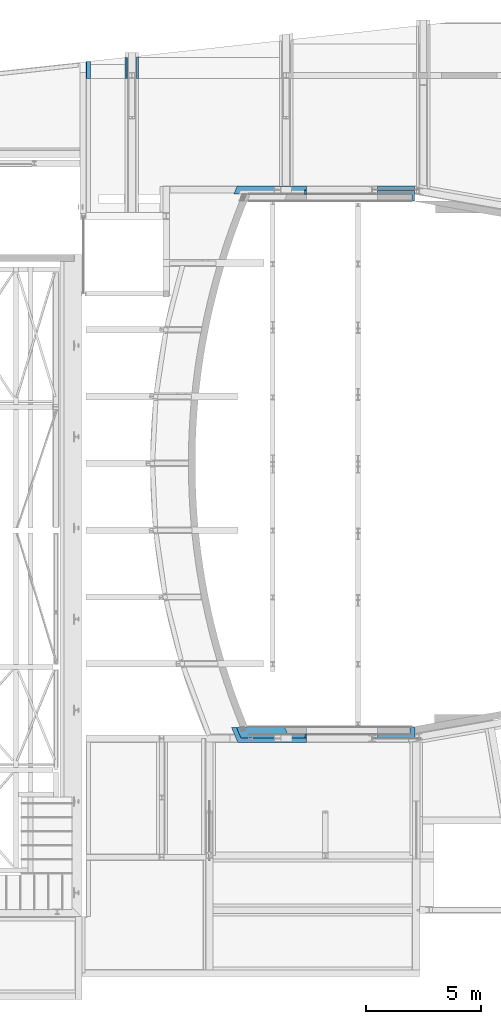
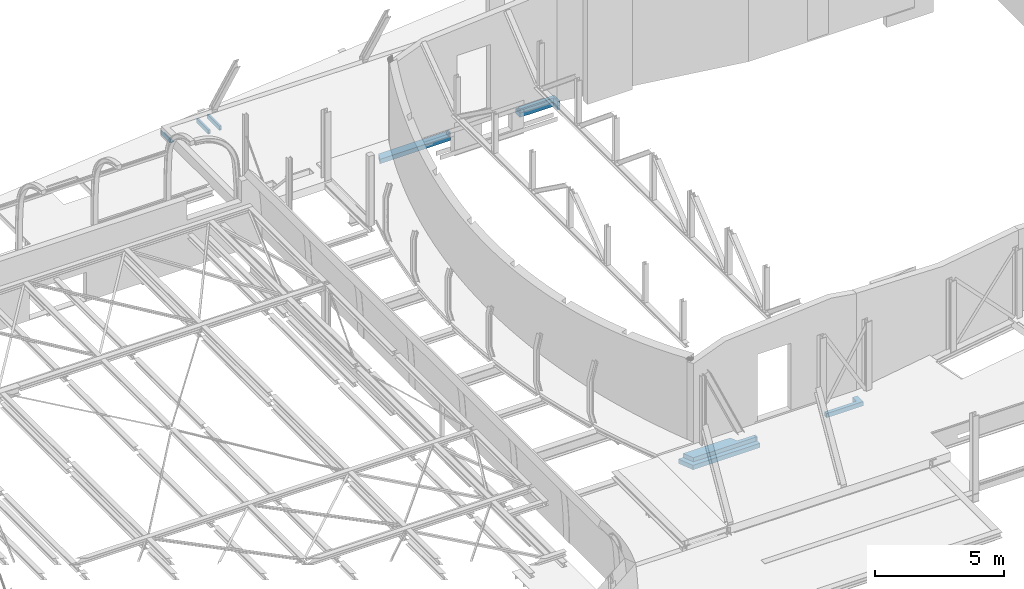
# One storey, part 28 of 38: 11 beams.
"""IFC2X3 building model written with IfcOpenShell, lengths in millimetres."""

from ifc_helpers import new_model, entity, si_unit, converted_unit, derived_unit, direction, frame, frame_2d, origin, origin_2d_with_axis, place, context, subcontext, project, spatial, polyline, circle_curve, parameter, trimmed, segment, composite_curve, rectangle, outline, extrude, faceted_brep, material, type_object, element, save


model = new_model("IFC2X3")

# Units and contexts
model_context = context("Model", 3, precision=0.01, world=origin(), true_north=direction((6.12303176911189e-17, 1.0)))
body_context = subcontext(model_context, "Body", "Model", "MODEL_VIEW")
ifc_project = project(units=[si_unit("LENGTHUNIT", "METRE", prefix="MILLI"), si_unit("AREAUNIT", "SQUARE_METRE", prefix="MILLI"), si_unit("VOLUMEUNIT", "CUBIC_METRE"), converted_unit("PLANEANGLEUNIT", "DEGREE", entity("IfcRatioMeasure", 0.0174532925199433), si_unit("PLANEANGLEUNIT", "RADIAN"), dimensions=[0, 0, 0, 0, 0, 0, 0]), si_unit("MASSUNIT", "GRAM", prefix="KILO"), derived_unit("MASSDENSITYUNIT", [(si_unit("MASSUNIT", "GRAM", prefix="KILO"), 1), (si_unit("LENGTHUNIT", "METRE"), -3)]), derived_unit("MOMENTOFINERTIAUNIT", [(si_unit("LENGTHUNIT", "METRE"), 4)]), si_unit("TIMEUNIT", "SECOND"), si_unit("FREQUENCYUNIT", "HERTZ"), si_unit("THERMODYNAMICTEMPERATUREUNIT", "DEGREE_CELSIUS"), derived_unit("THERMALTRANSMITTANCEUNIT", [(si_unit("MASSUNIT", "GRAM", prefix="KILO"), 1), (si_unit("THERMODYNAMICTEMPERATUREUNIT", "KELVIN"), -1), (si_unit("TIMEUNIT", "SECOND"), -3)]), derived_unit("VOLUMETRICFLOWRATEUNIT", [(si_unit("LENGTHUNIT", "METRE"), 3), (si_unit("TIMEUNIT", "SECOND"), -1)]), si_unit("ELECTRICCURRENTUNIT", "AMPERE"), si_unit("ELECTRICVOLTAGEUNIT", "VOLT"), si_unit("POWERUNIT", "WATT"), si_unit("FORCEUNIT", "NEWTON", prefix="KILO"), si_unit("ILLUMINANCEUNIT", "LUX"), si_unit("LUMINOUSFLUXUNIT", "LUMEN"), si_unit("LUMINOUSINTENSITYUNIT", "CANDELA"), derived_unit("USERDEFINED", [(si_unit("MASSUNIT", "GRAM", prefix="KILO"), -1), (si_unit("LENGTHUNIT", "METRE"), -2), (si_unit("TIMEUNIT", "SECOND"), 3), (si_unit("LUMINOUSFLUXUNIT", "LUMEN"), 1)]), derived_unit("LINEARVELOCITYUNIT", [(si_unit("LENGTHUNIT", "METRE"), 1), (si_unit("TIMEUNIT", "SECOND"), -1)]), si_unit("PRESSUREUNIT", "PASCAL"), derived_unit("USERDEFINED", [(si_unit("LENGTHUNIT", "METRE"), -2), (si_unit("MASSUNIT", "GRAM", prefix="KILO"), 1), (si_unit("TIMEUNIT", "SECOND"), -2)]), derived_unit("LINEARFORCEUNIT", [(si_unit("MASSUNIT", "GRAM", prefix="KILO"), 1), (si_unit("LENGTHUNIT", "METRE"), 1), (si_unit("TIMEUNIT", "SECOND"), -2), (si_unit("LENGTHUNIT", "METRE"), -1)]), derived_unit("PLANARFORCEUNIT", [(si_unit("MASSUNIT", "GRAM", prefix="KILO"), 1), (si_unit("LENGTHUNIT", "METRE"), 1), (si_unit("TIMEUNIT", "SECOND"), -2), (si_unit("LENGTHUNIT", "METRE"), -2)])], contexts=[model_context])

# Site, building, storey
site_placement = place(None, origin())
site = spatial("IfcSite", under=ifc_project, at=site_placement, Name="Theater aan de Parade", CompositionType="ELEMENT")
building_placement = place(site_placement, origin())
building = spatial("IfcBuilding", under=site, at=building_placement, Name="Theater aan de Parade", CompositionType="ELEMENT")
storey_placement = place(building_placement, frame((0.0, 0.0, 12480.0)))
storey = spatial("IfcBuildingStorey", under=building, at=storey_placement, Name="03 derde verdieping", CompositionType="ELEMENT", Elevation=12480.0)

# Beams
ifc_material_1 = material(Name="00_PBT_MAT_beton t.p.g.")
beam_type_1 = type_object("IfcBeamType", Name="28_PBT_SF_betonbalk:660x210_bestaand", PredefinedType="NOTDEFINED")
beam_1_placement = place(storey_placement, frame((43911.4379063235, 44208.4047277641, -800.0)))
element("IfcBeam", 1, at=beam_1_placement, inside=storey, type_object=beam_type_1, material=ifc_material_1, Name="28_PBT_SF_betonbalk:660x210_bestaand", ObjectType="28_PBT_SF_betonbalk:660x210_bestaand", context=body_context, shape_type="Brep", body=[
    faceted_brep([(3168.59735221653, 1.59527223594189, 0.0), (3168.59735221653, 361.595272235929, 0.0), (3168.59735221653, 361.595272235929, 210.0), (3168.59735221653, 161.595272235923, 210.0), (3168.59735221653, 1.59527223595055, 210.0), (3168.59735221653, 1.59527223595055, 200.0), (154.236377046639, 361.595272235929, 210.0), (154.23637704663, 361.595272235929, 0.0), (3087.42829916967, 1.59527223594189, 210.0), (219.806806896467, 1.59527223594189, 210.0), (217.751582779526, 1.59527223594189, 210.0), (1.59527223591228, 1.59527223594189, 210.0), (1.59527223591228, 1.59527223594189, 0.0), (1829.088116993, 1.59527223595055, 0.0), (77.3418285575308, 181.836861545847, 210.0), (77.3418285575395, 181.836861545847, 0.0)], [[[0, 1, 2, 3, 4, 5]], [[6, 2, 1, 7]], [[8, 9, 10, 11, 12, 13, 0, 5, 4]], [[8, 4, 3, 2, 6, 14, 11, 10, 9]], [[1, 0, 13, 12, 15, 7]], [[11, 14, 15, 12]], [[15, 14, 6, 7]]]),
])
beam_2_placement = place(storey_placement, frame((43812.5667193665, 20268.4047277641, -800.0)))
element("IfcBeam", 2, at=beam_2_placement, inside=storey, type_object=beam_type_1, material=ifc_material_1, Name="28_PBT_SF_betonbalk:660x210_bestaand", ObjectType="28_PBT_SF_betonbalk:660x210_bestaand", context=body_context, shape_type="Brep", body=[
    faceted_brep([(3267.46853917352, 1.59527223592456, 0.0), (3267.46853917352, 361.595272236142, 0.0), (3267.46853917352, 361.595272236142, 210.0), (3267.46853917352, 201.595272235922, 210.0), (3267.46853917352, 1.59527223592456, 210.0), (277.332779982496, 1.59527223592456, 0.0), (277.332779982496, 1.59527223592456, 210.0), (3210.52470210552, 361.595272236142, 210.0), (2459.1647734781, 361.595272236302, 210.0), (2391.54937010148, 511.401887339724, 210.0), (2324.79750244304, 661.595272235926, 210.0), (217.428094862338, 661.59527223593, 210.0), (1.59527223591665, 661.595272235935, 210.0), (137.541154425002, 330.791927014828, 210.0), (2324.79750244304, 661.595272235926, 0.0), (1822.8262412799, 661.595272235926, 0.0), (1.59527223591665, 661.595272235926, 0.0), (2391.54937010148, 511.401887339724, 0.0), (2459.16477347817, 361.595272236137, 0.0), (137.541154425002, 330.791927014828, 0.0)], [[[0, 1, 2, 3, 4]], [[5, 0, 4, 6]], [[4, 3, 2, 7, 8, 9, 10, 11, 12, 13, 6]], [[11, 10, 14, 15, 16, 12]], [[14, 17, 18, 1, 0, 5, 19, 16, 15]], [[16, 19, 13, 12]], [[13, 19, 5, 6]], [[7, 2, 1, 18, 8]], [[9, 17, 14, 10]], [[8, 18, 17, 9]]]),
])
beam_3_placement = place(storey_placement, frame((50180.03525854, 43910.0, -800.0), z_axis=(0.0, 0.0, 1.0), x_axis=(-1.0, 0.0, 0.0)))
element("IfcBeam", 3, at=beam_3_placement, inside=storey, type_object=beam_type_1, material=ifc_material_1, Name="28_PBT_SF_betonbalk:660x210_bestaand", ObjectType="28_PBT_SF_betonbalk:660x210_bestaand", context=body_context, shape_type="Brep", body=[
    faceted_brep([(0.0, -660.0, 210.0), (0.0, -660.0, 0.0), (0.0, -300.0, 0.0), (0.0, -300.0, 200.0), (0.0, -460.0, 200.0), (0.0, -460.0, 210.0), (-1618.83094695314, -660.0, 210.0), (-1618.83094695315, -660.0, 0.0), (-1618.83094695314, -460.0, 210.0), (-1618.83094695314, -460.0, 200.0), (-1618.83094695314, 0.0, 200.0), (-1618.83094695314, 0.0, 0.0), (-1502.99076307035, 0.0, 0.0), (-1502.99076307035, 0.0, 200.0), (-1502.99076307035, -300.0, 0.0), (-1502.99076307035, -300.0, 200.0)], [[[0, 1, 2, 3, 4, 5]], [[1, 0, 6, 7]], [[7, 6, 8, 9, 10, 11]], [[6, 0, 5, 8]], [[12, 11, 10, 13]], [[1, 7, 11, 12, 14, 2]], [[2, 14, 15, 3]], [[14, 12, 13, 15]], [[4, 9, 8, 5]], [[9, 4, 3, 15, 13, 10]]]),
])
beam_type_2 = type_object("IfcBeamType", Name="28_PBT_SF_betonbalk:460x200_bestaand", PredefinedType="NOTDEFINED")
beam_4_placement = place(storey_placement, frame((46998.8662054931, 43910.0, 1000.0)))
element("IfcBeam", 4, at=beam_4_placement, inside=storey, type_object=beam_type_2, material=ifc_material_1, Name="28_PBT_SF_betonbalk:460x200_bestaand", ObjectType="28_PBT_SF_betonbalk:460x200_bestaand", context=body_context, shape_type="SweptSolid", body=[
    extrude(rectangle(XDim=190.0, YDim=159.999999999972, at=frame_2d((0.0, 4.33431068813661e-12), x_axis=(1.0, 0.0))), frame((0.0, 380.0, -1495.0), z_axis=(1.0, 0.0, 0.0), x_axis=(0.0, 0.0, -1.0)), (0.0, 0.0, 1.0), 81.1690530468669),
])
beam_5_placement = place(storey_placement, frame((47023.0914214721, 20930.0, 1000.0)))
element("IfcBeam", 5, at=beam_5_placement, inside=storey, type_object=beam_type_2, material=ifc_material_1, Name="28_PBT_SF_betonbalk:460x200_bestaand", ObjectType="28_PBT_SF_betonbalk:460x200_bestaand", context=body_context, shape_type="SweptSolid", body=[
    extrude(rectangle(XDim=190.0, YDim=160.000000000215, at=origin_2d_with_axis()), frame((0.0, -380.0, -1495.0), z_axis=(1.0, 0.0, 0.0), x_axis=(0.0, 0.0, -1.0)), (0.0, 0.0, 1.0), 56.9438370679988),
])
beam_6_placement = place(storey_placement, frame((50180.03525854, 43910.0, -600.0)))
element("IfcBeam", 6, at=beam_6_placement, inside=storey, type_object=beam_type_2, material=ifc_material_1, Name="28_PBT_SF_betonbalk:460x200_bestaand", ObjectType="28_PBT_SF_betonbalk:460x200_bestaand", context=body_context, shape_type="Brep", body=[
    faceted_brep([(1618.83094695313, 460.0, 200.0), (1618.83094695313, 0.0, 200.0), (1618.83094695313, 0.0, 0.0), (1618.83094695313, 460.0, 0.0), (1618.83094695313, 460.0, 10.0), (0.0, 460.0, 0.0), (0.0, 460.0, 10.0), (0.0, 460.0, 200.0), (0.0, 300.0, 0.0), (0.0, 300.0, 200.0), (1502.99076307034, 300.0, 200.0), (1502.99076307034, 0.0, 200.0), (1502.99076307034, 0.0, 0.0), (1502.99076307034, 300.0, 0.0)], [[[0, 1, 2, 3, 4]], [[0, 4, 3, 5, 6, 7]], [[7, 6, 5, 8, 9]], [[1, 0, 7, 9, 10, 11]], [[2, 1, 11, 12]], [[3, 2, 12, 13, 8, 5]], [[13, 10, 9, 8]], [[10, 13, 12, 11]]]),
])
beam_7_placement = place(storey_placement, frame((50180.0352585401, 20470.0, -600.0)))
element("IfcBeam", 7, at=beam_7_placement, inside=storey, type_object=beam_type_2, material=ifc_material_1, Name="28_PBT_SF_betonbalk:460x200_bestaand", ObjectType="28_PBT_SF_betonbalk:460x200_bestaand", context=body_context, shape_type="Brep", body=[
    faceted_brep([(1643.05616293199, 460.0, 200.0), (1643.05616293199, 0.0, 200.0), (1643.05616293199, 0.0, 0.0), (1643.05616293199, 460.0, 0.0), (0.0, 0.0, 200.0), (0.0, 0.0, 0.0), (0.0, 160.0, 200.0), (0.0, 160.0, 0.0), (1417.27647735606, 460.0, 200.0), (1417.27647735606, 160.0, 200.0), (1417.27647735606, 460.0, 0.0), (1417.27647735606, 160.0, 0.0)], [[[0, 1, 2, 3]], [[2, 1, 4, 5]], [[5, 4, 6, 7]], [[1, 0, 8, 9, 6, 4]], [[0, 3, 10, 8]], [[3, 2, 5, 7, 11, 10]], [[9, 11, 7, 6]], [[11, 9, 8, 10]]]),
])
beam_type_3 = type_object("IfcBeamType", Name="28_PBT_SF_betonbalk:460x400_bestaand", PredefinedType="NOTDEFINED")
beam_8_placement = place(storey_placement, frame((44028.3995419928, 20468.4047277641, -590.0)))
element("IfcBeam", 8, at=beam_8_placement, inside=storey, type_object=beam_type_3, material=ifc_material_1, Name="28_PBT_SF_betonbalk:460x400_bestaand", ObjectType="28_PBT_SF_betonbalk:460x400_bestaand", context=body_context, shape_type="Brep", body=[
    faceted_brep([(193.32847885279, 1.59527223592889, 0.0), (2994.69187947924, 1.59527223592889, 0.0), (2994.69187947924, 1.59527223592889, 190.0), (193.32847885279, 1.59527223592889, 190.0), (2994.69187947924, 161.595272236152, 190.0), (2243.33195085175, 161.595272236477, 190.0), (2175.71654747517, 311.401887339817, 190.0), (2108.96467981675, 461.595272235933, 190.0), (174.542522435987, 461.595272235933, 190.0), (1.59527223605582, 461.595272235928, 190.0), (96.5220225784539, 231.203530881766, 190.0), (2108.96467981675, 461.595272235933, 0.0), (1.59527223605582, 461.595272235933, 0.0), (96.5220225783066, 231.203530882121, 0.0), (2994.69187947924, 161.595272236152, 0.0), (2243.33195085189, 161.595272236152, 0.0), (2175.71654747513, 311.401887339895, 0.0)], [[[0, 1, 2, 3]], [[2, 4, 5, 6, 7, 8, 9, 10, 3]], [[8, 7, 11, 12, 9]], [[12, 13, 10, 9]], [[10, 13, 0, 3]], [[1, 14, 4, 2]], [[4, 14, 15, 5]], [[15, 14, 1, 0, 13, 12, 11, 16]], [[6, 16, 11, 7]], [[5, 15, 16, 6]]]),
])
ifc_material_2 = material(Name="00_PBT_MAT_staal_S355")
beam_type_4 = type_object("IfcBeamType", Name="28_PBT_SF_staal_L-profiel:S355_L200x200x20", PredefinedType="NOTDEFINED")
beam_9_placement = place(storey_placement, frame((37510.6581300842, 49261.9979908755, 0.0), z_axis=(0.0, 0.0, 1.0), x_axis=(0.0, 1.0, 0.0)))
element("IfcBeam", 9, at=beam_9_placement, inside=storey, type_object=beam_type_4, material=ifc_material_2, Name="28_PBT_SF_staal_L-profiel:S355_L200x200x20", ObjectType="28_PBT_SF_staal_L-profiel:S355_L200x200x20", context=body_context, shape_type="SweptSolid", body=[
    extrude(outline(composite_curve([segment(polyline([(64.5555555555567, -124.444444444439), (75.5555555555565, -124.444444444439)]), True, "CONTINUOUS"), segment(polyline([(75.5555555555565, -124.444444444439), (75.5555555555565, 75.5555555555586)]), True, "CONTINUOUS"), segment(polyline([(75.5555555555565, 75.5555555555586), (-124.444444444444, 75.5555555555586)]), True, "CONTINUOUS"), segment(polyline([(-124.444444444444, 75.5555555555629), (-124.444444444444, 64.5555555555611)]), True, "CONTINUOUS"), segment(trimmed(circle_curve(frame_2d((-115.444444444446, 64.5555555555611), x_axis=(-1.0, 0.0)), 8.99999999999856), [parameter(0.0)], [parameter(90.0000000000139)], True, "PARAMETER"), True, "CONTINUOUS"), segment(polyline([(-115.444444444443, 55.5555555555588), (37.5555555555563, 55.5555555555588)]), True, "CONTINUOUS"), segment(trimmed(circle_curve(frame_2d((37.5555555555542, 37.5555555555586), x_axis=(0.0, 1.0)), 18.0000000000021), [parameter(270.000000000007)], [parameter(0.0)], True, "PARAMETER"), False, "CONTINUOUS"), segment(polyline([(55.5555555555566, 37.5555555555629), (55.5555555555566, -115.444444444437)]), True, "CONTINUOUS"), segment(trimmed(circle_curve(frame_2d((64.5555555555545, -115.444444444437), x_axis=(-1.0, 0.0)), 8.99999999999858), [parameter(0.0)], [parameter(90.0000000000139)], True, "PARAMETER"), True, "CONTINUOUS")], self_intersect=False)), frame((0.0, -18.7555555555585, -549.444444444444), z_axis=(1.0, 0.0, 0.0), x_axis=(0.0, 0.0, -1.0)), (0.0, 0.0, 1.0), 727.474891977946),
])
ifc_material_3 = material(Name="00_PBT_MAT_staal_S235")
beam_type_5 = type_object("IfcBeamType", Name="28_PBT_SF_staal_koker:S235_K100x200x8", PredefinedType="NOTDEFINED")
beam_10_placement = place(storey_placement, frame((39162.1672575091, 49261.9979908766, 0.0), z_axis=(0.0, 0.0, 1.0), x_axis=(0.0, 1.0, 0.0)))
element("IfcBeam", 10, at=beam_10_placement, inside=storey, type_object=beam_type_5, material=ifc_material_3, Name="28_PBT_SF_staal_koker:S235_K100x200x8", ObjectType="28_PBT_SF_staal_koker:S235_K100x200x8", context=body_context, shape_type="SweptSolid", body=[
    extrude(outline(composite_curve([segment(trimmed(circle_curve(frame_2d((-38.0, -88.0), x_axis=(1.0, 0.0)), 12.0), [parameter(180.0)], [parameter(270.0)], True, "PARAMETER"), True, "CONTINUOUS"), segment(polyline([(-38.0, -100.0), (38.0, -100.0)]), True, "CONTINUOUS"), segment(trimmed(circle_curve(frame_2d((38.0, -88.0), x_axis=(1.0, 0.0)), 12.0), [parameter(270.0)], [parameter(0.0)], True, "PARAMETER"), True, "CONTINUOUS"), segment(polyline([(50.0, -88.0), (50.0, 88.0)]), True, "CONTINUOUS"), segment(trimmed(circle_curve(frame_2d((38.0, 88.0), x_axis=(1.0, 0.0)), 12.0), [parameter(3.05333249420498e-13)], [parameter(90.0000000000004)], True, "PARAMETER"), True, "CONTINUOUS"), segment(polyline([(38.0, 100.0), (-38.0, 100.0)]), True, "CONTINUOUS"), segment(trimmed(circle_curve(frame_2d((-38.0, 88.0), x_axis=(1.0, 0.0)), 12.0), [parameter(90.0000000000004)], [parameter(180.0)], True, "PARAMETER"), True, "CONTINUOUS"), segment(polyline([(-50.0, 88.0), (-50.0, -88.0)]), True, "CONTINUOUS")], self_intersect=False), holes=[composite_curve([segment(trimmed(circle_curve(frame_2d((34.0, 84.0), x_axis=(1.0, 0.0)), 8.0), [parameter(360.0)], [parameter(90.0000000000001)], True, "PARAMETER"), False, "CONTINUOUS"), segment(polyline([(42.0, 84.0), (42.0, -84.0)]), True, "CONTINUOUS"), segment(trimmed(circle_curve(frame_2d((34.0, -84.0), x_axis=(1.0, 0.0)), 8.0), [parameter(270.0)], [parameter(360.0)], True, "PARAMETER"), False, "CONTINUOUS"), segment(polyline([(34.0, -92.0), (-34.0, -92.0)]), True, "CONTINUOUS"), segment(trimmed(circle_curve(frame_2d((-34.0, -84.0), x_axis=(1.0, 0.0)), 8.0), [parameter(180.0)], [parameter(270.0)], True, "PARAMETER"), False, "CONTINUOUS"), segment(polyline([(-42.0, -84.0), (-42.0, 84.0)]), True, "CONTINUOUS"), segment(trimmed(circle_curve(frame_2d((-34.0, 84.0), x_axis=(1.0, 0.0)), 8.0), [parameter(89.9999999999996)], [parameter(180.0)], True, "PARAMETER"), False, "CONTINUOUS"), segment(polyline([(-34.0, 92.0), (34.0, 92.0)]), True, "CONTINUOUS")], self_intersect=False)]), frame((0.0, -50.0, -705.0), z_axis=(1.0, 0.0, 0.0), x_axis=(0.0, 1.0, 0.0)), (0.0, 0.0, 1.0), 905.000000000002),
])
beam_11_placement = place(storey_placement, frame((39762.1672575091, 49261.9979908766, 0.0), z_axis=(0.0, 0.0, 1.0), x_axis=(0.0, 1.0, 0.0)))
element("IfcBeam", 11, at=beam_11_placement, inside=storey, type_object=beam_type_5, material=ifc_material_3, Name="28_PBT_SF_staal_koker:S235_K100x200x8", ObjectType="28_PBT_SF_staal_koker:S235_K100x200x8", context=body_context, shape_type="SweptSolid", body=[
    extrude(outline(composite_curve([segment(polyline([(-88.0, -50.0), (88.0, -50.0)]), True, "CONTINUOUS"), segment(trimmed(circle_curve(frame_2d((88.0, -38.0), x_axis=(0.0, 1.0)), 12.0), [parameter(180.0)], [parameter(270.0)], True, "PARAMETER"), True, "CONTINUOUS"), segment(polyline([(100.0, -38.0), (100.0, 38.0)]), True, "CONTINUOUS"), segment(trimmed(circle_curve(frame_2d((88.0, 38.0), x_axis=(0.0, 1.0)), 12.0), [parameter(270.0)], [parameter(360.0)], True, "PARAMETER"), True, "CONTINUOUS"), segment(polyline([(88.0, 50.0), (-88.0, 50.0)]), True, "CONTINUOUS"), segment(trimmed(circle_curve(frame_2d((-88.0, 38.0), x_axis=(0.0, 1.0)), 12.0), [parameter(0.0)], [parameter(90.0000000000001)], True, "PARAMETER"), True, "CONTINUOUS"), segment(polyline([(-100.0, 38.0), (-100.0, -38.0)]), True, "CONTINUOUS"), segment(trimmed(circle_curve(frame_2d((-88.0, -38.0), x_axis=(0.0, 1.0)), 12.0), [parameter(89.9999999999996)], [parameter(180.0)], True, "PARAMETER"), True, "CONTINUOUS")], self_intersect=False), holes=[composite_curve([segment(polyline([(92.0, 34.0), (92.0, -34.0)]), True, "CONTINUOUS"), segment(trimmed(circle_curve(frame_2d((84.0, -34.0), x_axis=(0.0, 1.0)), 8.0), [parameter(180.0)], [parameter(270.0)], True, "PARAMETER"), False, "CONTINUOUS"), segment(polyline([(84.0, -42.0), (-84.0, -42.0)]), True, "CONTINUOUS"), segment(trimmed(circle_curve(frame_2d((-84.0, -34.0), x_axis=(0.0, 1.0)), 8.0), [parameter(90.0)], [parameter(180.0)], True, "PARAMETER"), False, "CONTINUOUS"), segment(polyline([(-92.0, -34.0), (-92.0, 34.0)]), True, "CONTINUOUS"), segment(trimmed(circle_curve(frame_2d((-84.0, 34.0), x_axis=(0.0, 1.0)), 8.0), [parameter(3.56222124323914e-13)], [parameter(90.0000000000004)], True, "PARAMETER"), False, "CONTINUOUS"), segment(polyline([(-84.0, 42.0), (84.0, 42.0)]), True, "CONTINUOUS"), segment(trimmed(circle_curve(frame_2d((84.0, 34.0), x_axis=(0.0, 1.0)), 8.0), [parameter(270.0)], [parameter(1.01777749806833e-13)], True, "PARAMETER"), False, "CONTINUOUS")], self_intersect=False)]), frame((0.0, 50.0, -705.0), z_axis=(1.0, 0.0, 0.0), x_axis=(0.0, 0.0, 1.0)), (0.0, 0.0, 1.0), 939.228879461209),
])

save(model, "model.ifc")
